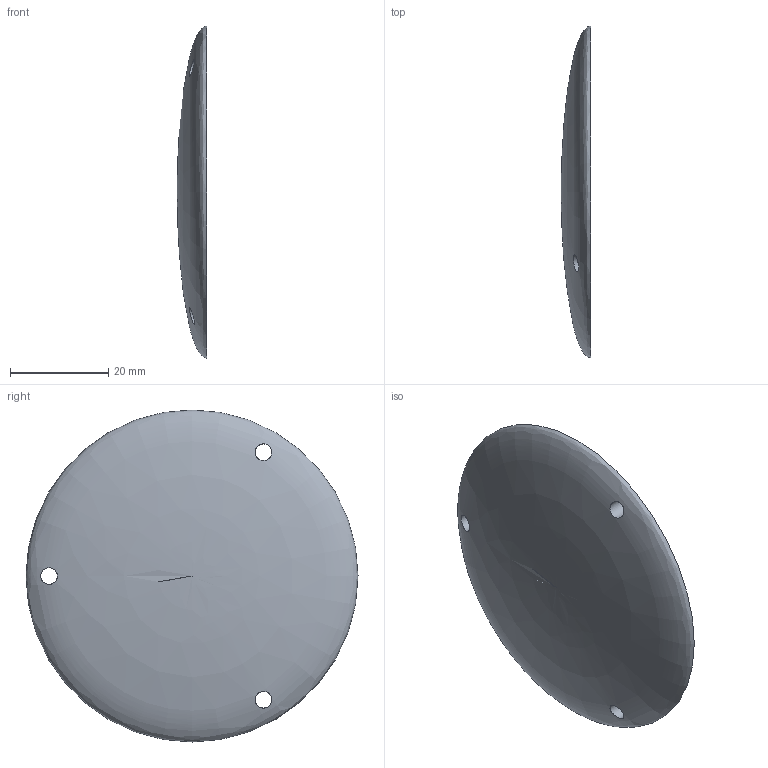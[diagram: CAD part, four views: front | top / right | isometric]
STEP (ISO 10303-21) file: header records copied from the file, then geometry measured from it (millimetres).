
FILE_DESCRIPTION(('Open CASCADE Model'),'2;1');
FILE_NAME('Open CASCADE Shape Model','2026-10-31T23:31:01',('Author'),( 'Open CASCADE'),'Open CASCADE STEP processor 7.9','Open CASCADE 7.9' ,'Unknown');
FILE_SCHEMA(('AUTOMOTIVE_DESIGN { 1 0 10303 214 1 1 1 1 }'));
Length unit declared in the file: millimetre
Products named in the file (1): Open CASCADE STEP translator 7.9 24
Bounding box: 6 x 67.6 x 67.6 mm (x, y, z)
Volume: 14273.7 mm3; surface area: 7496.4 mm2
Topology: 1 solids, 1 shells, 5 faces, 15 edges, 10 vertices
Faces by surface type: cylinder 3, plane 1, revolution 1
Full cylindrical faces by diameter (mm): 3.4 x3
Entity records: 1473 total; most frequent: CARTESIAN_POINT 1193, DIRECTION 40, ORIENTED_EDGE 28, PCURVE 28, DEFINITIONAL_REPRESENTATION 28, B_SPLINE_CURVE_WITH_KNOTS 18, LINE 17, VECTOR 17
